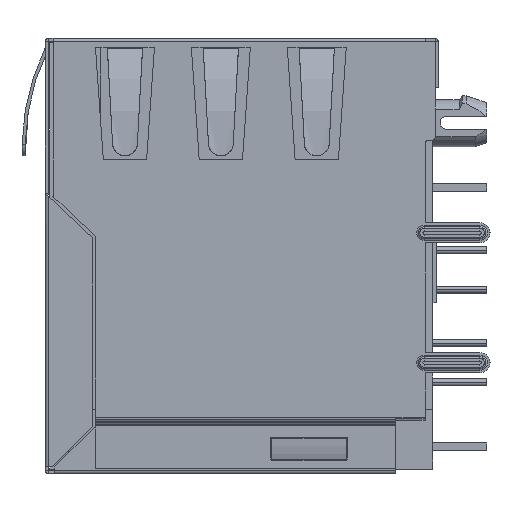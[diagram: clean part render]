
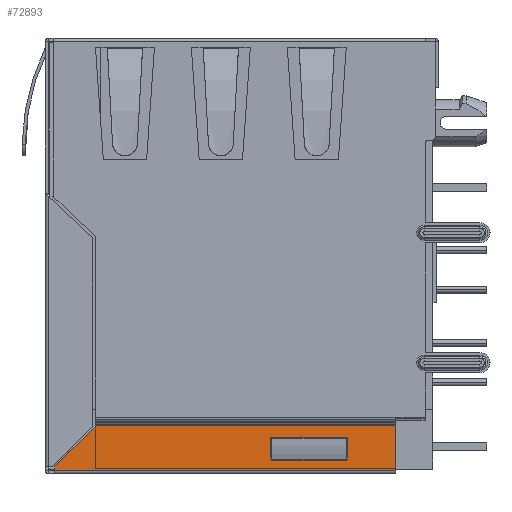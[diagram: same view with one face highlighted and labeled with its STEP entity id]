
A CAD part, left-side view. The second image highlights one B-rep face of the part: STEP entity #72893.
In plain terms, the highlighted planar face has unit normal (-1, 0, 0).
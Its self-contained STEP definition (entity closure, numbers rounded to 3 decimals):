
#57048=DIRECTION('',(0.,0.,1.));
#57049=VECTOR('',#57048,22.05);
#57050=CARTESIAN_POINT('',(-31.875,13.875,-22.65));
#57051=LINE('',#57050,#57049);
#57060=DIRECTION('',(0.,-1.,0.));
#57061=VECTOR('',#57060,1.4);
#57062=CARTESIAN_POINT('',(-31.875,13.125,-14.55));
#57063=LINE('',#57062,#57061);
#57064=DIRECTION('',(0.,0.,1.));
#57065=VECTOR('',#57064,5.);
#57066=CARTESIAN_POINT('',(-31.875,13.125,-19.55));
#57067=LINE('',#57066,#57065);
#57068=DIRECTION('',(0.,1.,0.));
#57069=VECTOR('',#57068,1.4);
#57070=CARTESIAN_POINT('',(-31.875,11.725,-19.55));
#57071=LINE('',#57070,#57069);
#57072=DIRECTION('',(0.,0.,-1.));
#57073=VECTOR('',#57072,5.);
#57074=CARTESIAN_POINT('',(-31.875,11.725,-14.55));
#57075=LINE('',#57074,#57073);
#57076=DIRECTION('',(0.,-1.,0.));
#57077=VECTOR('',#57076,2.95);
#57078=CARTESIAN_POINT('',(-31.875,13.875,-22.65));
#57079=LINE('',#57078,#57077);
#57080=DIRECTION('',(0.,-1.,0.));
#57081=VECTOR('',#57080,0.24);
#57082=CARTESIAN_POINT('',(-31.875,13.875,-0.6));
#57083=LINE('',#57082,#57081);
#57084=DIRECTION('',(0.,-0.707,-0.707));
#57085=VECTOR('',#57084,3.833);
#57086=CARTESIAN_POINT('',(-31.875,13.635,-0.6));
#57087=LINE('',#57086,#57085);
#57088=DIRECTION('',(0.,0.,-1.));
#57089=VECTOR('',#57088,19.34);
#57090=CARTESIAN_POINT('',(-31.875,10.925,-3.31));
#57091=LINE('',#57090,#57089);
#60142=CARTESIAN_POINT('',(-31.875,10.925,-3.31));
#60144=VERTEX_POINT('',#60142);
#60180=CARTESIAN_POINT('',(-31.875,13.875,-0.6));
#60181=CARTESIAN_POINT('',(-31.875,13.635,-0.6));
#60182=VERTEX_POINT('',#60180);
#60183=VERTEX_POINT('',#60181);
#60220=CARTESIAN_POINT('',(-31.875,13.125,-14.55));
#60221=CARTESIAN_POINT('',(-31.875,11.725,-14.55));
#60222=VERTEX_POINT('',#60220);
#60223=VERTEX_POINT('',#60221);
#60224=CARTESIAN_POINT('',(-31.875,11.725,-19.55));
#60225=VERTEX_POINT('',#60224);
#60226=CARTESIAN_POINT('',(-31.875,13.125,-19.55));
#60227=VERTEX_POINT('',#60226);
#60640=CARTESIAN_POINT('',(-31.875,13.875,-22.65));
#60641=CARTESIAN_POINT('',(-31.875,10.925,-22.65));
#60642=VERTEX_POINT('',#60640);
#60643=VERTEX_POINT('',#60641);
#72868=CARTESIAN_POINT('',(-31.875,14.075,-18.764));
#72869=DIRECTION('',(1.,0.,0.));
#72870=DIRECTION('',(0.,0.,1.));
#72871=AXIS2_PLACEMENT_3D('',#72868,#72869,#72870);
#72872=PLANE('',#72871);
#72874=ORIENTED_EDGE('',*,*,#72873,.F.);
#72875=ORIENTED_EDGE('',*,*,#72836,.T.);
#72876=ORIENTED_EDGE('',*,*,#72858,.T.);
#72878=ORIENTED_EDGE('',*,*,#72877,.T.);
#72880=ORIENTED_EDGE('',*,*,#72879,.T.);
#72881=EDGE_LOOP('',(#72874,#72875,#72876,#72878,#72880));
#72882=FACE_OUTER_BOUND('',#72881,.F.);
#72884=ORIENTED_EDGE('',*,*,#72883,.F.);
#72886=ORIENTED_EDGE('',*,*,#72885,.F.);
#72888=ORIENTED_EDGE('',*,*,#72887,.F.);
#72890=ORIENTED_EDGE('',*,*,#72889,.F.);
#72891=EDGE_LOOP('',(#72884,#72886,#72888,#72890));
#72892=FACE_BOUND('',#72891,.F.);
#72893=ADVANCED_FACE('',(#72882,#72892),#72872,.F.);
#72836=EDGE_CURVE('',#60642,#60182,#57051,.T.);
#72858=EDGE_CURVE('',#60182,#60183,#57083,.T.);
#72873=EDGE_CURVE('',#60642,#60643,#57079,.T.);
#72877=EDGE_CURVE('',#60183,#60144,#57087,.T.);
#72879=EDGE_CURVE('',#60144,#60643,#57091,.T.);
#72883=EDGE_CURVE('',#60222,#60223,#57063,.T.);
#72885=EDGE_CURVE('',#60227,#60222,#57067,.T.);
#72887=EDGE_CURVE('',#60225,#60227,#57071,.T.);
#72889=EDGE_CURVE('',#60223,#60225,#57075,.T.);
